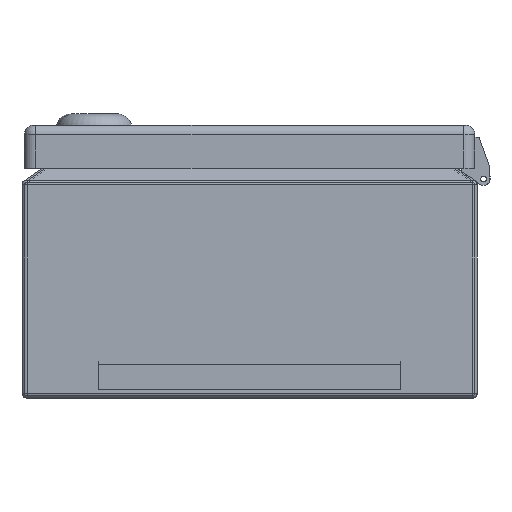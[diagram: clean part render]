
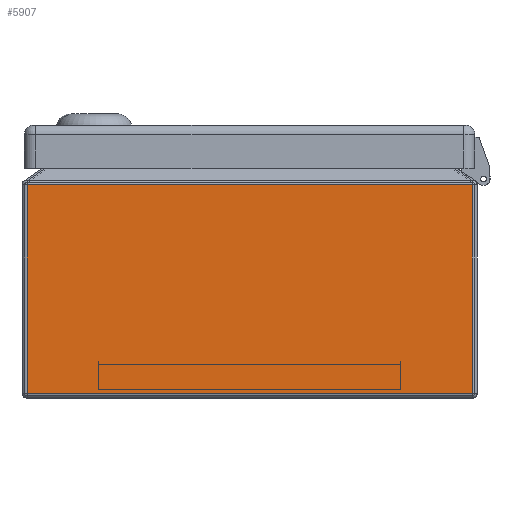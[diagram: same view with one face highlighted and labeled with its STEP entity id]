
A CAD part, left-side view. The second image highlights one B-rep face of the part: STEP entity #5907.
In plain terms, the highlighted planar face has unit normal (-1, 0, 0).
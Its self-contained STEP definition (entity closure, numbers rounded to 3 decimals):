
#137 = DIRECTION ( 'NONE',  ( 0., 0., 1. ) ) ;
#152 = VERTEX_POINT ( 'NONE', #7517 ) ;
#333 = ORIENTED_EDGE ( 'NONE', *, *, #7132, .T. ) ;
#436 = EDGE_CURVE ( 'NONE', #7794, #5526, #853, .T. ) ;
#501 = PLANE ( 'NONE',  #8364 ) ;
#853 = LINE ( 'NONE', #5987, #867 ) ;
#867 = VECTOR ( 'NONE', #137, 1000. ) ;
#1082 = EDGE_CURVE ( 'NONE', #6772, #7794, #6895, .T. ) ;
#1084 = DIRECTION ( 'NONE',  ( 0., -1., 0. ) ) ;
#1120 = CARTESIAN_POINT ( 'NONE',  ( -250., -100., 116. ) ) ;
#1195 = ORIENTED_EDGE ( 'NONE', *, *, #2690, .T. ) ;
#1213 = CARTESIAN_POINT ( 'NONE',  ( -250., -97.8, 93.753 ) ) ;
#1551 = CARTESIAN_POINT ( 'NONE',  ( -250., 97.8, 116. ) ) ;
#1726 = ORIENTED_EDGE ( 'NONE', *, *, #1082, .T. ) ;
#2447 = DIRECTION ( 'NONE',  ( 0., 0., -1. ) ) ;
#2690 = EDGE_CURVE ( 'NONE', #5526, #152, #8324, .T. ) ;
#3375 = LINE ( 'NONE', #1551, #5197 ) ;
#3677 = CARTESIAN_POINT ( 'NONE',  ( -250., 97.8, 2.2 ) ) ;
#4325 = CARTESIAN_POINT ( 'NONE',  ( -250., -97.8, 2.2 ) ) ;
#5004 = CARTESIAN_POINT ( 'NONE',  ( -250., -100., 2.2 ) ) ;
#5197 = VECTOR ( 'NONE', #8086, 1000. ) ;
#5366 = VECTOR ( 'NONE', #1084, 1000. ) ;
#5526 = VERTEX_POINT ( 'NONE', #1213 ) ;
#5594 = FACE_OUTER_BOUND ( 'NONE', #6113, .T. ) ;
#5907 = ADVANCED_FACE ( 'NONE', ( #5594 ), #501, .F. ) ;
#5987 = CARTESIAN_POINT ( 'NONE',  ( -250., -97.8, 116. ) ) ;
#6113 = EDGE_LOOP ( 'NONE', ( #1195, #333, #1726, #8056 ) ) ;
#6273 = VECTOR ( 'NONE', #6964, 1000. ) ;
#6772 = VERTEX_POINT ( 'NONE', #3677 ) ;
#6895 = LINE ( 'NONE', #5004, #5366 ) ;
#6964 = DIRECTION ( 'NONE',  ( 0., 1., 0. ) ) ;
#7132 = EDGE_CURVE ( 'NONE', #152, #6772, #3375, .T. ) ;
#7517 = CARTESIAN_POINT ( 'NONE',  ( -250., 97.8, 93.753 ) ) ;
#7640 = CARTESIAN_POINT ( 'NONE',  ( -250., -100., 93.753 ) ) ;
#7794 = VERTEX_POINT ( 'NONE', #4325 ) ;
#8056 = ORIENTED_EDGE ( 'NONE', *, *, #436, .T. ) ;
#8086 = DIRECTION ( 'NONE',  ( 0., 0., -1. ) ) ;
#8257 = DIRECTION ( 'NONE',  ( 1., 0., 0. ) ) ;
#8324 = LINE ( 'NONE', #7640, #6273 ) ;
#8364 = AXIS2_PLACEMENT_3D ( 'NONE', #1120, #8257, #2447 ) ;
